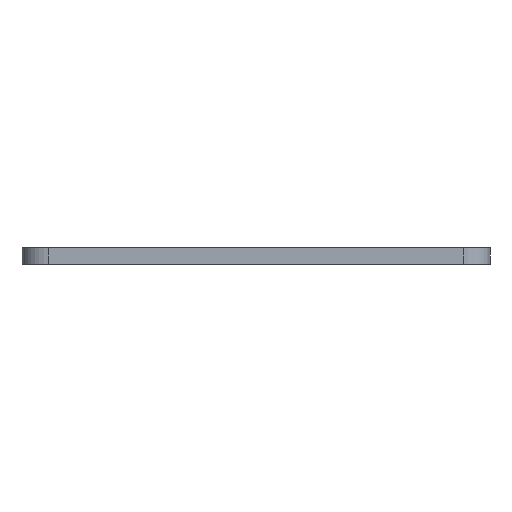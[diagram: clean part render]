
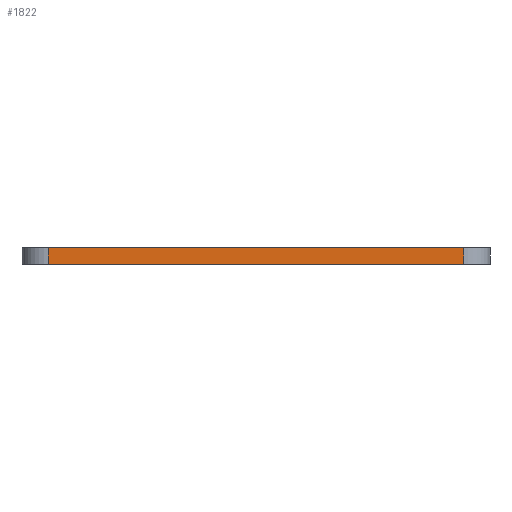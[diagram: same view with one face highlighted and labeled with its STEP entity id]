
A CAD part, left-side view. The second image highlights one B-rep face of the part: STEP entity #1822.
In plain terms, the highlighted planar face has unit normal (-1, 0, 0).
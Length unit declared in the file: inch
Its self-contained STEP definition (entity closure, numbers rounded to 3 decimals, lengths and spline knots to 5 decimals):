
#50 = EDGE_CURVE ( 'NONE', #386, #373, #672, .T. ) ;
#70 = EDGE_CURVE ( 'NONE', #368, #380, #692, .T. ) ;
#97 = EDGE_CURVE ( 'NONE', #373, #380, #728, .T. ) ;
#103 = EDGE_CURVE ( 'NONE', #386, #368, #740, .T. ) ;
#263 = ORIENTED_EDGE ( 'NONE', *, *, #70, .T. ) ;
#264 = ORIENTED_EDGE ( 'NONE', *, *, #97, .F. ) ;
#265 = ORIENTED_EDGE ( 'NONE', *, *, #50, .F. ) ;
#266 = ORIENTED_EDGE ( 'NONE', *, *, #103, .T. ) ;
#368 = VERTEX_POINT ( 'NONE', #1286 ) ;
#373 = VERTEX_POINT ( 'NONE', #1291 ) ;
#380 = VERTEX_POINT ( 'NONE', #1297 ) ;
#386 = VERTEX_POINT ( 'NONE', #1303 ) ;
#586 = EDGE_LOOP ( 'NONE', ( #263, #264, #265, #266 ) ) ;
#672 = LINE ( 'NONE', #941, #674 ) ;
#674 = VECTOR ( 'NONE', #942, 39.37008 ) ;
#692 = LINE ( 'NONE', #1004, #695 ) ;
#695 = VECTOR ( 'NONE', #952, 39.37008 ) ;
#728 = LINE ( 'NONE', #1076, #731 ) ;
#731 = VECTOR ( 'NONE', #1077, 39.37008 ) ;
#740 = LINE ( 'NONE', #1088, #743 ) ;
#743 = VECTOR ( 'NONE', #1089, 39.37008 ) ;
#941 = CARTESIAN_POINT ( 'NONE',  ( -1.16102, -0.49966, 0.05906 ) ) ;
#942 = DIRECTION ( 'NONE',  ( 0., -1., 0. ) ) ;
#952 = DIRECTION ( 'NONE',  ( 0., -1., 0. ) ) ;
#1004 = CARTESIAN_POINT ( 'NONE',  ( -1.16102, -0.49966, 0. ) ) ;
#1076 = CARTESIAN_POINT ( 'NONE',  ( -1.16102, -0.49966, 0.05906 ) ) ;
#1077 = DIRECTION ( 'NONE',  ( 0., 0., -1. ) ) ;
#1088 = CARTESIAN_POINT ( 'NONE',  ( -1.16102, 0.99934, 0.05906 ) ) ;
#1089 = DIRECTION ( 'NONE',  ( 0., 0., -1. ) ) ;
#1286 = CARTESIAN_POINT ( 'NONE',  ( -1.16102, 0.99934, 0. ) ) ;
#1291 = CARTESIAN_POINT ( 'NONE',  ( -1.16102, -0.49966, 0.05906 ) ) ;
#1297 = CARTESIAN_POINT ( 'NONE',  ( -1.16102, -0.49966, 0. ) ) ;
#1303 = CARTESIAN_POINT ( 'NONE',  ( -1.16102, 0.99934, 0.05906 ) ) ;
#1477 = CARTESIAN_POINT ( 'NONE',  ( -1.16102, -0.49966, 0.05906 ) ) ;
#1479 = PLANE ( 'NONE',  #2001 ) ;
#1481 = DIRECTION ( 'NONE',  ( 1., 0., 0. ) ) ;
#1482 = DIRECTION ( 'NONE',  ( 0., 0., -1. ) ) ;
#1655 = FACE_OUTER_BOUND ( 'NONE', #586, .T. ) ;
#1822 = ADVANCED_FACE ( 'NONE', ( #1655 ), #1479, .F. ) ;
#2001 = AXIS2_PLACEMENT_3D ( 'NONE', #1477, #1481, #1482 ) ;
